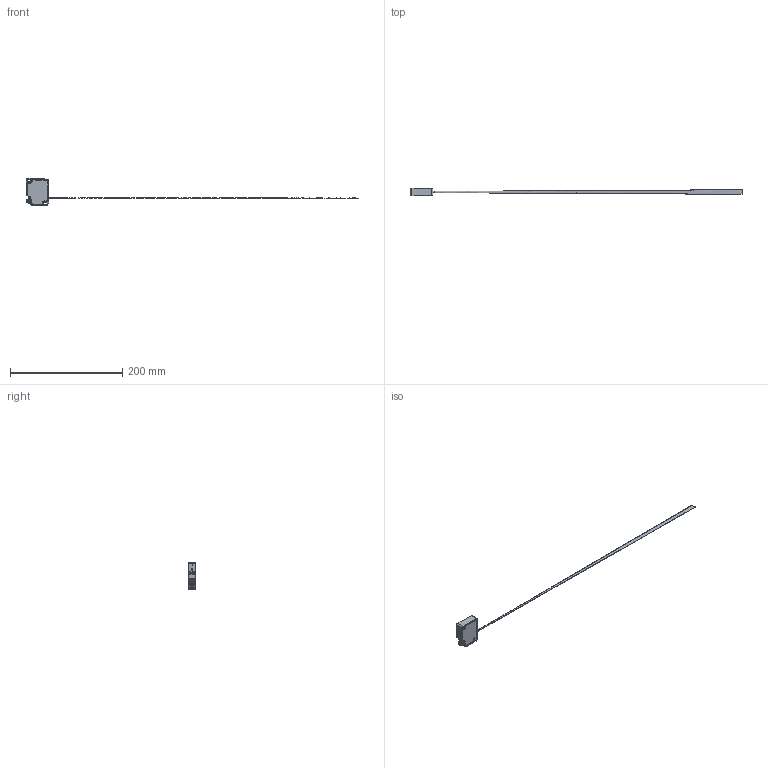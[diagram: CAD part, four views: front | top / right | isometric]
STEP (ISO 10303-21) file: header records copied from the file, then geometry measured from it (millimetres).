
FILE_DESCRIPTION( ( 'Unknown' ), '1' );
FILE_NAME( 'X:/SolidEdge/Models/Dokumentationen/Opto/OWLS/Vereinfachte Modelle/Neutralformate/OWLS-4060-AE-S2R-L.xxN.par.stp', 'Unknown', ( 'Unknown' ), ( 'Unknown' ), 'PSStep 19.0.9', 'Unknown', ' ' );
FILE_SCHEMA( ( 'AUTOMOTIVE_DESIGN { 1 0 10303 214 1 1 1 1 }' ) );
Length unit declared in the file: millimetre
Products named in the file (4): Assem1; OWLS-4060-AE-S2R-L; OWLS-4060-AE-S2R-L-Strahlverlauf-Modul-10166217
Assembly tree (3 placements, depth 2):
  Assem1
    OWLS-4060-AE-S2R-L
    OWLS-4060-AE-S2R-L
    OWLS-4060-AE-S2R-L-Strahlverlauf-Modul-10166217
Bounding box: 590.85 x 13.6 x 49 mm (x, y, z)
Volume: 24356.3 mm3; surface area: 12739.6 mm2
Topology: 3 solids, 3 shells, 286 faces, 746 edges, 474 vertices
Faces by surface type: plane 117, cylinder 110, cone 21, torus 21, bspline 10, sphere 5, revolution 2
Full cylindrical faces by diameter (mm): 0.5 x1, 1 x4, 3.15 x1, 5.77 x1, 6.5 x2, 6.9 x1, 8 x1
Entity records: 12391 total; most frequent: CARTESIAN_POINT 3016, DIRECTION 1522, ORIENTED_EDGE 1422, EDGE_CURVE 711, AXIS2_PLACEMENT_3D 558, VERTEX_POINT 468, LINE 404, VECTOR 404
